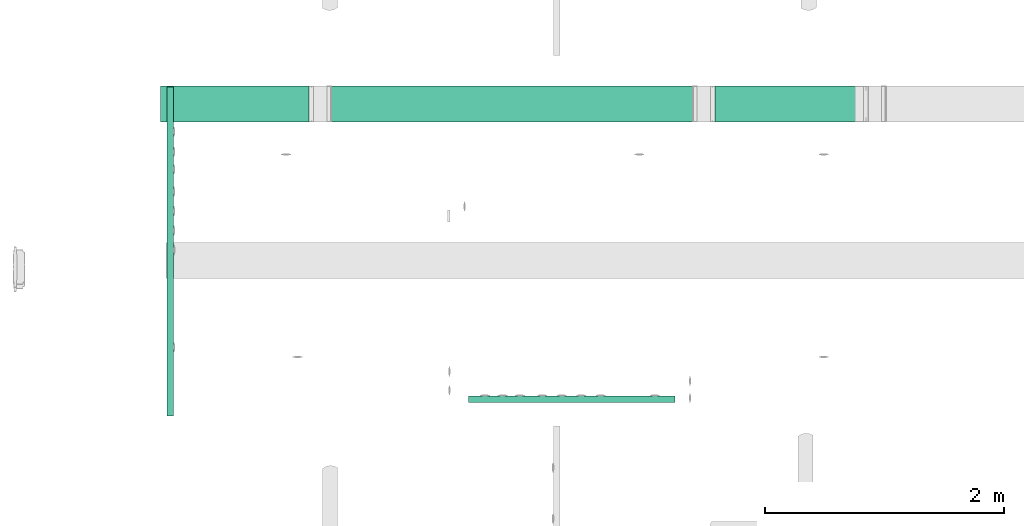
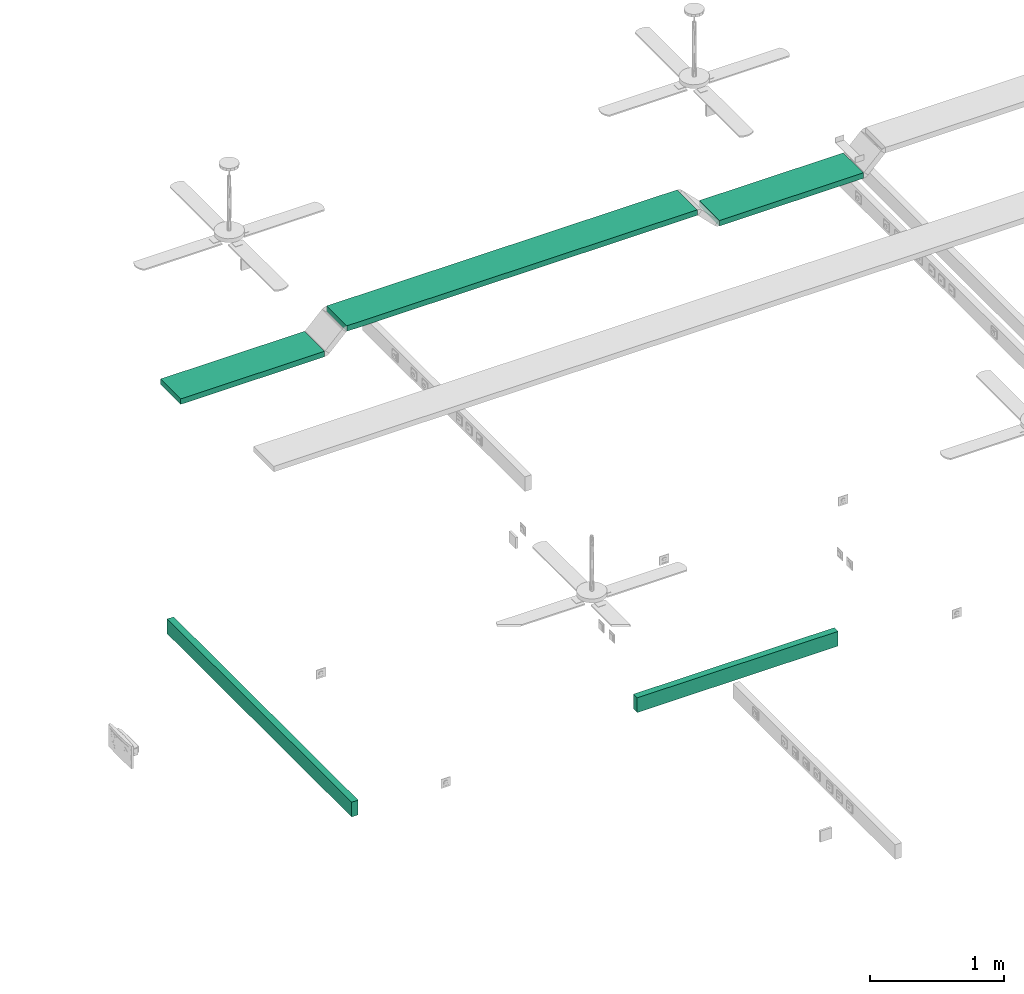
# One storey, part 2 of 166: 5 flow segments.
"""IFC2X3 building model written with IfcOpenShell, lengths in metres."""

from ifc_helpers import new_model, entity, si_unit, converted_unit, derived_unit, direction, frame, frame_2d, origin, origin_2d_with_axis, place, context, subcontext, project, spatial, rectangle, extrude, type_object, element, save


model = new_model("IFC2X3")

# Units and contexts
model_context = context("Model", 3, precision=1e-05, world=origin(), true_north=direction((6.12303176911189e-17, 1.0)))
body_context = subcontext(model_context, "Body", "Model", "MODEL_VIEW")
ifc_project = project(units=[si_unit("LENGTHUNIT", "METRE"), si_unit("AREAUNIT", "SQUARE_METRE"), si_unit("VOLUMEUNIT", "CUBIC_METRE"), converted_unit("PLANEANGLEUNIT", "DEGREE", entity("IfcRatioMeasure", 0.0174532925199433), si_unit("PLANEANGLEUNIT", "RADIAN"), dimensions=[0, 0, 0, 0, 0, 0, 0]), si_unit("MASSUNIT", "GRAM", prefix="KILO"), derived_unit("MASSDENSITYUNIT", [(si_unit("MASSUNIT", "GRAM", prefix="KILO"), 1), (si_unit("LENGTHUNIT", "METRE"), -3)]), si_unit("TIMEUNIT", "SECOND"), si_unit("FREQUENCYUNIT", "HERTZ"), si_unit("THERMODYNAMICTEMPERATUREUNIT", "DEGREE_CELSIUS"), derived_unit("THERMALTRANSMITTANCEUNIT", [(si_unit("MASSUNIT", "GRAM", prefix="KILO"), 1), (si_unit("THERMODYNAMICTEMPERATUREUNIT", "KELVIN"), -1), (si_unit("TIMEUNIT", "SECOND"), -3)]), derived_unit("VOLUMETRICFLOWRATEUNIT", [(si_unit("LENGTHUNIT", "METRE"), 3), (si_unit("TIMEUNIT", "SECOND"), -1)]), si_unit("ELECTRICCURRENTUNIT", "AMPERE"), si_unit("ELECTRICVOLTAGEUNIT", "VOLT"), si_unit("POWERUNIT", "WATT"), si_unit("FORCEUNIT", "NEWTON"), si_unit("ILLUMINANCEUNIT", "LUX"), si_unit("LUMINOUSFLUXUNIT", "LUMEN"), si_unit("LUMINOUSINTENSITYUNIT", "CANDELA"), derived_unit("USERDEFINED", [(si_unit("MASSUNIT", "GRAM", prefix="KILO"), -1), (si_unit("LENGTHUNIT", "METRE"), -2), (si_unit("TIMEUNIT", "SECOND"), 3), (si_unit("LUMINOUSFLUXUNIT", "LUMEN"), 1)]), derived_unit("LINEARVELOCITYUNIT", [(si_unit("LENGTHUNIT", "METRE"), 1), (si_unit("TIMEUNIT", "SECOND"), -1)]), si_unit("PRESSUREUNIT", "PASCAL"), derived_unit("USERDEFINED", [(si_unit("LENGTHUNIT", "METRE"), -2), (si_unit("MASSUNIT", "GRAM", prefix="KILO"), 1), (si_unit("TIMEUNIT", "SECOND"), -2)])], contexts=[model_context])

# Site, building, storey
site_placement = place(None, origin())
site = spatial("IfcSite", under=ifc_project, at=site_placement, Name="Default", CompositionType="ELEMENT")
building_placement = place(site_placement, origin())
building = spatial("IfcBuilding", under=site, at=building_placement, CompositionType="ELEMENT")
storey_placement = place(building_placement, frame((0.0, 0.0, 4.27)))
storey = spatial("IfcBuildingStorey", under=building, at=storey_placement, Name="01", CompositionType="ELEMENT", Elevation=4.27)

# Flow segments
cable_carrier_segment_type_1 = type_object("IfcCableCarrierSegmentType", Name="Cable Tray with Fittings:Goulottes de câbles indéfini_Goulottes de câbles", PredefinedType="NOTDEFINED")
flow_segment_1_placement = place(storey_placement, origin())
element("IfcFlowSegment", 1, at=flow_segment_1_placement, inside=storey, type_object=cable_carrier_segment_type_1, Name="Cable Tray with Fittings:Goulottes de câbles indéfini_Goulottes de câbles", ObjectType="Cable Tray with Fittings:Goulottes de câbles indéfini_Goulottes de câbles", context=body_context, shape_type="SweptSolid", body=[
    extrude(rectangle(XDim=2.74900000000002, YDim=0.0559999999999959, at=origin_2d_with_axis()), frame((26.1517436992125, -189.320355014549, 0.366), z_axis=(0.0, 0.0, 1.0), x_axis=(0.0, -1.0, 0.0)), (0.0, 0.0, 1.0), 0.134),
])
flow_segment_2_placement = place(storey_placement, origin())
element("IfcFlowSegment", 2, at=flow_segment_2_placement, inside=storey, type_object=cable_carrier_segment_type_1, Name="Cable Tray with Fittings:Goulottes de câbles indéfini_Goulottes de câbles", ObjectType="Cable Tray with Fittings:Goulottes de câbles indéfini_Goulottes de câbles", context=body_context, shape_type="SweptSolid", body=[
    extrude(rectangle(XDim=1.727, YDim=0.0559999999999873, at=frame_2d((-2.16493489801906e-15, 0.0), x_axis=(1.0, 0.0))), frame((29.5066934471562, -190.55606962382, 0.366)), (0.0, 0.0, 1.0), 0.134),
])
cable_carrier_segment_type_2 = type_object("IfcCableCarrierSegmentType", Name="Cable Tray with Fittings:Chemins de câbles en treillis_Chemins de câbles en treillis", PredefinedType="NOTDEFINED")
flow_segment_3_placement = place(storey_placement, origin())
element("IfcFlowSegment", 3, at=flow_segment_3_placement, inside=storey, type_object=cable_carrier_segment_type_2, Name="Cable Tray with Fittings:Chemins de câbles en treillis_Chemins de câbles en treillis", ObjectType="Cable Tray with Fittings:Chemins de câbles en treillis_Chemins de câbles en treillis", context=body_context, shape_type="SweptSolid", body=[
    extrude(rectangle(XDim=3.01401428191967, YDim=0.300000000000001, at=frame_2d((-2.22044604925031e-15, -1.73194791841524e-14), x_axis=(1.0, 0.0))), frame((29.0078836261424, -188.087883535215, 2.80999087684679), z_axis=(-1.2359047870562e-06, 0.0, 1.0), x_axis=(-1.0, 0.0, -1.2359047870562e-06)), (0.0, 0.0, 1.0), 0.0500000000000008),
])
flow_segment_4_placement = place(storey_placement, origin())
element("IfcFlowSegment", 4, at=flow_segment_4_placement, inside=storey, type_object=cable_carrier_segment_type_2, Name="Cable Tray with Fittings:Chemins de câbles en treillis_Chemins de câbles en treillis", ObjectType="Cable Tray with Fittings:Chemins de câbles en treillis_Chemins de câbles en treillis", context=body_context, shape_type="SweptSolid", body=[
    extrude(rectangle(XDim=1.23808091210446, YDim=0.300000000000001, at=frame_2d((2.16493489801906e-15, 0.0), x_axis=(1.0, 0.0))), frame((31.324885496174, -188.087883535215, 2.64595756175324), z_axis=(0.0, 0.0, 1.0), x_axis=(-1.0, 0.0, 0.0)), (0.0, 0.0, 1.0), 0.0499999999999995),
])
flow_segment_5_placement = place(storey_placement, origin())
element("IfcFlowSegment", 5, at=flow_segment_5_placement, inside=storey, type_object=cable_carrier_segment_type_2, Name="Cable Tray with Fittings:Chemins de câbles en treillis_Chemins de câbles en treillis", ObjectType="Cable Tray with Fittings:Chemins de câbles en treillis_Chemins de câbles en treillis", context=body_context, shape_type="SweptSolid", body=[
    extrude(rectangle(XDim=1.23808091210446, YDim=0.300000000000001, at=frame_2d((2.16493489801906e-15, 0.0), x_axis=(1.0, 0.0))), frame((26.690885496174, -188.087883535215, 2.64595756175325), z_axis=(0.0, 0.0, 1.0), x_axis=(-1.0, 0.0, 0.0)), (0.0, 0.0, 1.0), 0.0499999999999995),
])

save(model, "model.ifc")
